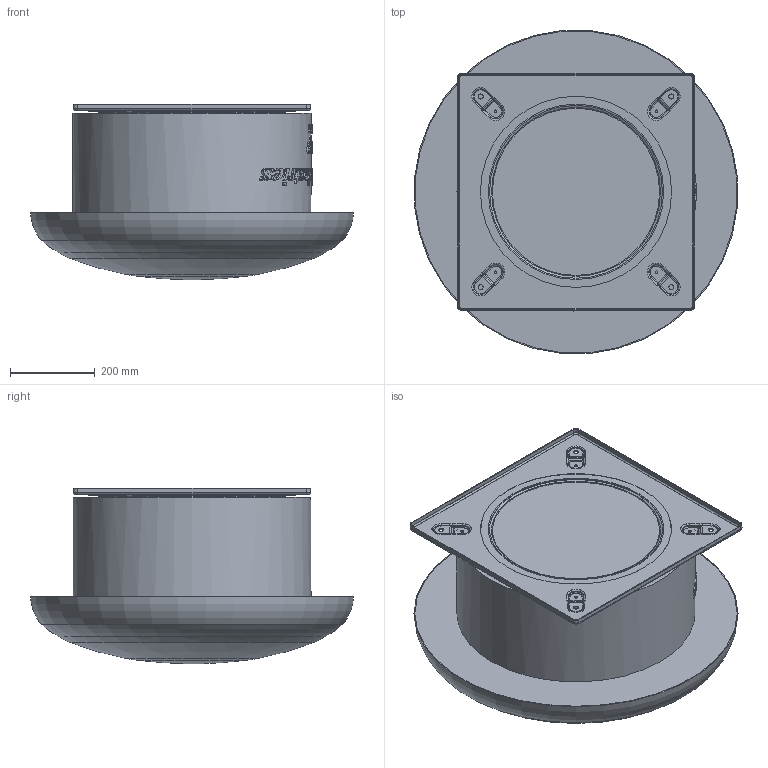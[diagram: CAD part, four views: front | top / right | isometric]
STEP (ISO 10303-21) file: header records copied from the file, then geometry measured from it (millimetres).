
FILE_DESCRIPTION(/* description */ (''),/* implementation_level */ '2;1');
FILE_NAME(/* name */ 'D:\Piotr - Dokumenty\Modele uproszczone\RF\RF X-355X\2 6256 100 100 SIMPLIFIED.stp',/* time_stamp */ '2021-03-09T10:19:28+01:00',/* author */ ('Piotr.Nowotniak'),/* organization */ (''),/* preprocessor_version */ 'ST-DEVELOPER v18',/* originating_system */ 'Autodesk Inventor 2020',/* authorisation */ '');
FILE_SCHEMA (('AUTOMOTIVE_DESIGN { 1 0 10303 214 3 1 1 }'));
Length unit declared in the file: millimetre
Products named in the file (1): 2 6256 100 100 SIMPLIFIED
Bounding box: 762.12 x 762.12 x 414.52 mm (x, y, z)
Volume: 109070715.7 mm3; surface area: 1928003.3 mm2
Topology: 1 solids, 1 shells, 901 faces, 2416 edges, 1564 vertices
Faces by surface type: bspline 451, plane 274, cylinder 129, torus 35, cone 12
Full cylindrical faces by diameter (mm): 6.5 x4, 12 x4, 394.665 x1, 450 x1, 451.076 x1, 562 x1
Entity records: 40858 total; most frequent: CARTESIAN_POINT 19838, ORIENTED_EDGE 4832, DIRECTION 3129, EDGE_CURVE 2416, VERTEX_POINT 1564, AXIS2_PLACEMENT_3D 1161, EDGE_LOOP 964, STYLED_ITEM 902
